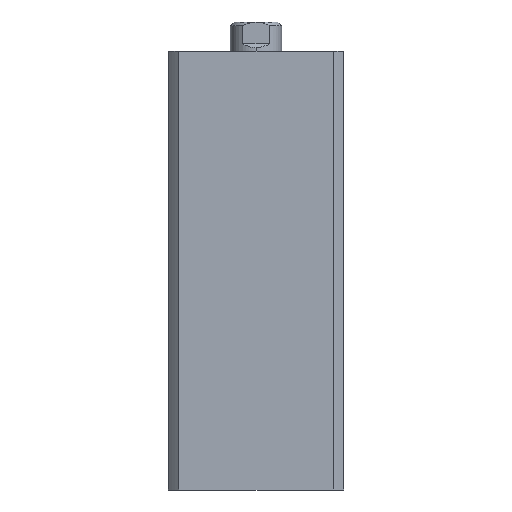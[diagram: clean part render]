
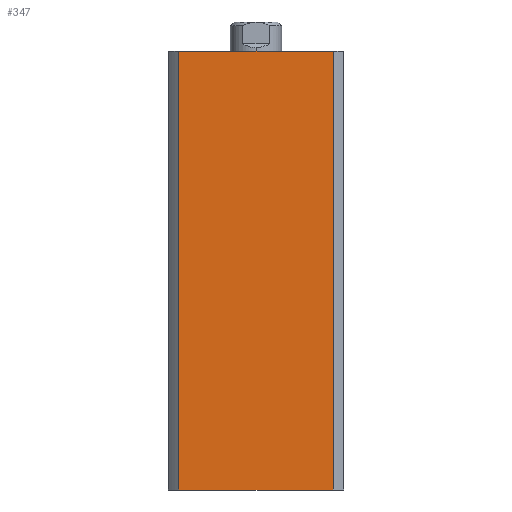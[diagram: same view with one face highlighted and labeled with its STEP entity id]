
A CAD part, left-side view. The second image highlights one B-rep face of the part: STEP entity #347.
In plain terms, the highlighted planar face has unit normal (-1, 0, 0).
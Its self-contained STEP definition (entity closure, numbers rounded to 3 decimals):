
#80 = EDGE_CURVE ( 'NONE', #517, #463, #547, .T. ) ;
#81 = EDGE_CURVE ( 'NONE', #1511, #463, #561, .T. ) ;
#82 = EDGE_CURVE ( 'NONE', #453, #517, #562, .T. ) ;
#347 = ADVANCED_FACE ( 'NONE', ( #744 ), #2859, .F. ) ;
#453 = VERTEX_POINT ( 'NONE', #3449 ) ;
#463 = VERTEX_POINT ( 'NONE', #3459 ) ;
#517 = VERTEX_POINT ( 'NONE', #3514 ) ;
#547 = LINE ( 'NONE', #3176, #563 ) ;
#556 = VECTOR ( 'NONE', #3182, 1000. ) ;
#560 = VECTOR ( 'NONE', #3144, 1000. ) ;
#561 = LINE ( 'NONE', #3059, #560 ) ;
#562 = LINE ( 'NONE', #3084, #556 ) ;
#563 = VECTOR ( 'NONE', #3159, 1000. ) ;
#744 = FACE_OUTER_BOUND ( 'NONE', #2030, .T. ) ;
#904 = LINE ( 'NONE', #3841, #906 ) ;
#906 = VECTOR ( 'NONE', #3867, 1000. ) ;
#1130 = EDGE_CURVE ( 'NONE', #453, #1511, #904, .T. ) ;
#1511 = VERTEX_POINT ( 'NONE', #4051 ) ;
#2030 = EDGE_LOOP ( 'NONE', ( #2340, #2341, #2342, #2343 ) ) ;
#2340 = ORIENTED_EDGE ( 'NONE', *, *, #80, .T. ) ;
#2341 = ORIENTED_EDGE ( 'NONE', *, *, #81, .F. ) ;
#2342 = ORIENTED_EDGE ( 'NONE', *, *, #1130, .F. ) ;
#2343 = ORIENTED_EDGE ( 'NONE', *, *, #82, .T. ) ;
#2857 = CARTESIAN_POINT ( 'NONE',  ( -24., 0., 120. ) ) ;
#2859 = PLANE ( 'NONE',  #4856 ) ;
#2862 = DIRECTION ( 'NONE',  ( 1., 0., 0. ) ) ;
#2863 = DIRECTION ( 'NONE',  ( 0., 0., -1. ) ) ;
#3059 = CARTESIAN_POINT ( 'NONE',  ( -24., -21.166, 120. ) ) ;
#3084 = CARTESIAN_POINT ( 'NONE',  ( -24., 21.166, 120. ) ) ;
#3144 = DIRECTION ( 'NONE',  ( 0., 0., -1. ) ) ;
#3159 = DIRECTION ( 'NONE',  ( 0., -1., 0. ) ) ;
#3176 = CARTESIAN_POINT ( 'NONE',  ( -24., 0., 0. ) ) ;
#3182 = DIRECTION ( 'NONE',  ( 0., 0., -1. ) ) ;
#3449 = CARTESIAN_POINT ( 'NONE',  ( -24., 21.166, 120. ) ) ;
#3459 = CARTESIAN_POINT ( 'NONE',  ( -24., -21.166, 0. ) ) ;
#3514 = CARTESIAN_POINT ( 'NONE',  ( -24., 21.166, 0. ) ) ;
#3841 = CARTESIAN_POINT ( 'NONE',  ( -24., 0., 120. ) ) ;
#3867 = DIRECTION ( 'NONE',  ( 0., -1., 0. ) ) ;
#4051 = CARTESIAN_POINT ( 'NONE',  ( -24., -21.166, 120. ) ) ;
#4856 = AXIS2_PLACEMENT_3D ( 'NONE', #2857, #2862, #2863 ) ;
